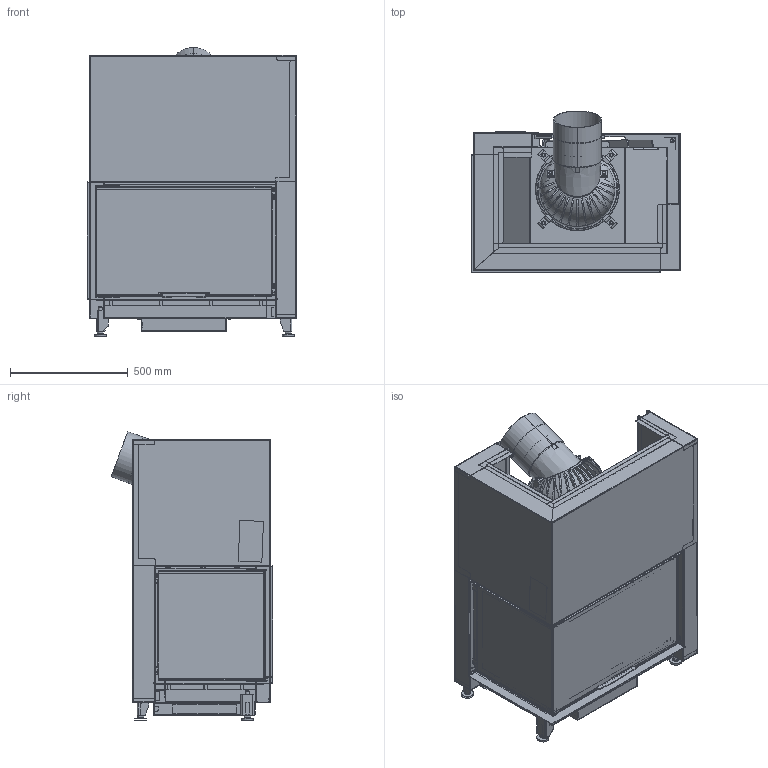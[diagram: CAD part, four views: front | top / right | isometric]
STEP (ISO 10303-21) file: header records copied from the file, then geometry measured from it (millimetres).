
FILE_DESCRIPTION(/* description */ (''),/* implementation_level */ '2;1');
FILE_NAME(/* name */ 'C:\ADSK_DM_WS\CAD_3D\03 Geraete\RII 50x80x50\Zeichnungen\RII_50x80x50_Links_ohne_Mantel_Hinten_Gen2_2022-03215.stp',/* time_stamp */ '2022-08-04T11:06:56+02:00',/* author */ ('TIS'),/* organization */ (''),/* preprocessor_version */ 'ST-DEVELOPER v18.1',/* originating_system */ 'Autodesk Inventor 2022',/* authorisation */ '');
FILE_SCHEMA (('AUTOMOTIVE_DESIGN { 1 0 10303 214 3 1 1 }'));
Products named in the file (7): 2022-03215; 2022-03210; 2022-03209; 2022-03208; 2022-03207; 2022-03206; 2022-03204
Assembly tree (6 placements, depth 2):
  2022-03215
    2022-03210
    2022-03209
    2022-03208
    2022-03207
    2022-03206
    2022-03204
Bounding box: 888.9 x 684.89 x 1225.27 mm (x, y, z)
Volume: 49923404.7 mm3; surface area: 17877228.5 mm2
Topology: 18 solids, 29 shells, 8366 faces, 22231 edges, 13787 vertices
Faces by surface type: plane 5179, cylinder 2740, bspline 229, cone 165, torus 53
Full cylindrical faces by diameter (mm): 4 x6, 4.5 x4, 4.8 x6, 6 x3, 7.4 x6, 7.9 x1, 8 x8, 9 x3, 9.5 x6, 10 x3, 11.192 x3, 11.4 x6, 12 x2, 16 x14, 30 x4, 163 x1, 333 x1, 339 x1
Entity records: 275395 total; most frequent: CARTESIAN_POINT 56284, ORIENTED_EDGE 44410, DIRECTION 43999, EDGE_CURVE 22258, LINE 14719, VECTOR 14719, AXIS2_PLACEMENT_3D 14640, VERTEX_POINT 13793
